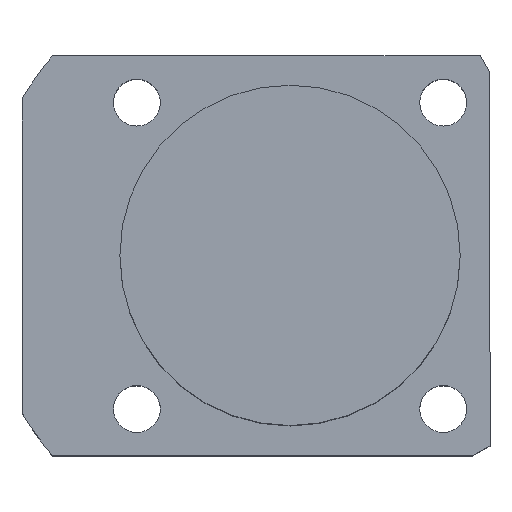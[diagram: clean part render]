
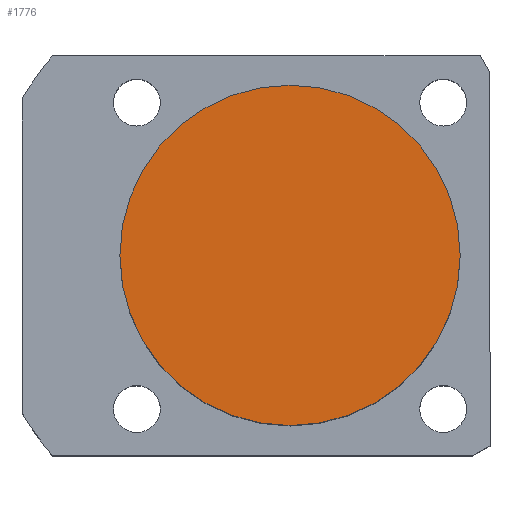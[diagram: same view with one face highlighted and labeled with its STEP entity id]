
A CAD part, top view. The second image highlights one B-rep face of the part: STEP entity #1776.
In plain terms, the highlighted planar face has unit normal (0, 0, 1).
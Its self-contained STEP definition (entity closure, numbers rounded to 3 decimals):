
#61 = VERTEX_POINT ( 'NONE', #1684 ) ;
#90 = CIRCLE ( 'NONE', #549, 20. ) ;
#99 = CIRCLE ( 'NONE', #676, 20. ) ;
#134 = EDGE_CURVE ( 'NONE', #61, #603, #99, .T. ) ;
#323 = CARTESIAN_POINT ( 'NONE',  ( 0., 0., 41.5 ) ) ;
#376 = CARTESIAN_POINT ( 'NONE',  ( 0., 0., 41.5 ) ) ;
#468 = ORIENTED_EDGE ( 'NONE', *, *, #134, .T. ) ;
#534 = DIRECTION ( 'NONE',  ( 1., 0., 0. ) ) ;
#545 = EDGE_CURVE ( 'NONE', #603, #61, #90, .T. ) ;
#549 = AXIS2_PLACEMENT_3D ( 'NONE', #376, #995, #534 ) ;
#603 = VERTEX_POINT ( 'NONE', #828 ) ;
#650 = DIRECTION ( 'NONE',  ( 1., 0., 0. ) ) ;
#676 = AXIS2_PLACEMENT_3D ( 'NONE', #681, #1846, #1842 ) ;
#681 = CARTESIAN_POINT ( 'NONE',  ( 0., 0., 41.5 ) ) ;
#828 = CARTESIAN_POINT ( 'NONE',  ( 20., 0., 41.5 ) ) ;
#995 = DIRECTION ( 'NONE',  ( 0., 0., 1. ) ) ;
#1015 = AXIS2_PLACEMENT_3D ( 'NONE', #323, #1069, #650 ) ;
#1069 = DIRECTION ( 'NONE',  ( 0., 0., 1. ) ) ;
#1106 = ORIENTED_EDGE ( 'NONE', *, *, #545, .T. ) ;
#1157 = EDGE_LOOP ( 'NONE', ( #468, #1106 ) ) ;
#1290 = FACE_OUTER_BOUND ( 'NONE', #1157, .T. ) ;
#1508 = PLANE ( 'NONE',  #1015 ) ;
#1684 = CARTESIAN_POINT ( 'NONE',  ( -20., 0., 41.5 ) ) ;
#1776 = ADVANCED_FACE ( 'NONE', ( #1290 ), #1508, .T. ) ;
#1842 = DIRECTION ( 'NONE',  ( 1., 0., 0. ) ) ;
#1846 = DIRECTION ( 'NONE',  ( 0., 0., 1. ) ) ;
